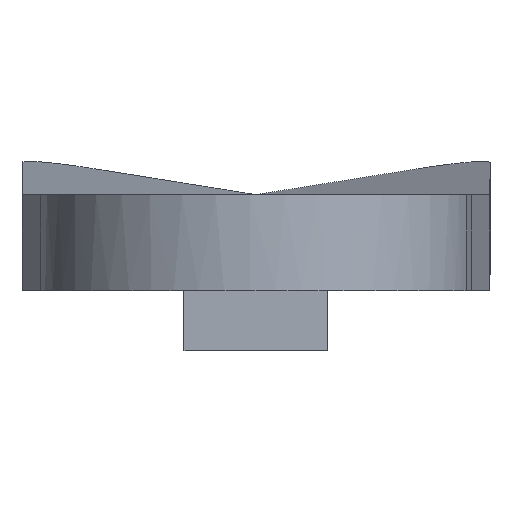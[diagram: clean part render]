
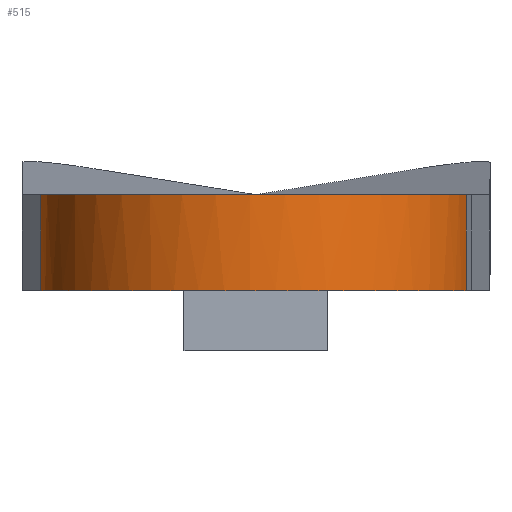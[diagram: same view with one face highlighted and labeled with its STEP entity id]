
A CAD part, left-side view. The second image highlights one B-rep face of the part: STEP entity #515.
In plain terms, the highlighted cylindrical face has radius 9 mm (diameter 18 mm), a partial arc.
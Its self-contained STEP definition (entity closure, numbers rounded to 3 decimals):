
#8 = CARTESIAN_POINT ( 'NONE',  ( -8.977, -0.871, 4. ) ) ;
#13 = AXIS2_PLACEMENT_3D ( 'NONE', #622, #873, #521 ) ;
#19 = VERTEX_POINT ( 'NONE', #265 ) ;
#29 = CARTESIAN_POINT ( 'NONE',  ( -3.741, 8.27, 0. ) ) ;
#34 = CARTESIAN_POINT ( 'NONE',  ( -6.575, 6.174, 4. ) ) ;
#45 = CARTESIAN_POINT ( 'NONE',  ( -4.264, -7.948, 4. ) ) ;
#71 = FACE_OUTER_BOUND ( 'NONE', #494, .T. ) ;
#84 = B_SPLINE_CURVE_WITH_KNOTS ( 'NONE', 3,
 ( #696, #1112, #1028, #951, #452, #735, #923, #990, #834, #913, #746, #34, #126, #752, #477, #295, #575, #981, #1075, #995, #8, #918, #390, #492, #880, #663, #959, #741, #1068, #212, #45, #135, #497, #628 ),
 .UNSPECIFIED., .F., .F.,
 ( 4, 2, 2, 2, 2, 2, 2, 2, 2, 2, 2, 2, 2, 2, 2, 2, 4 ),
 ( 0., 0.063, 0.125, 0.188, 0.25, 0.313, 0.375, 0.438, 0.5, 0.563, 0.625, 0.688, 0.75, 0.813, 0.875, 0.938, 1. ),
 .UNSPECIFIED. ) ;
#85 = CARTESIAN_POINT ( 'NONE',  ( 2.056, 8.762, 4. ) ) ;
#97 = CARTESIAN_POINT ( 'NONE',  ( -2.056, -8.762, 0. ) ) ;
#99 = CARTESIAN_POINT ( 'NONE',  ( -9.031, 0.909, 0. ) ) ;
#114 = CARTESIAN_POINT ( 'NONE',  ( -8.27, -3.741, 0. ) ) ;
#119 = VERTEX_POINT ( 'NONE', #717 ) ;
#126 = CARTESIAN_POINT ( 'NONE',  ( -6.964, 5.732, 4. ) ) ;
#135 = CARTESIAN_POINT ( 'NONE',  ( -3.188, -8.437, 4. ) ) ;
#204 = CARTESIAN_POINT ( 'NONE',  ( -8.493, 3.203, 0. ) ) ;
#208 = CARTESIAN_POINT ( 'NONE',  ( -2.056, -8.762, 1.333 ) ) ;
#209 = CARTESIAN_POINT ( 'NONE',  ( -6.209, -6.621, 0. ) ) ;
#212 = CARTESIAN_POINT ( 'NONE',  ( -4.773, -7.653, 4. ) ) ;
#254 = ORIENTED_EDGE ( 'NONE', *, *, #548, .F. ) ;
#265 = CARTESIAN_POINT ( 'NONE',  ( -2.056, -8.762, 0. ) ) ;
#295 = CARTESIAN_POINT ( 'NONE',  ( -8.437, 3.188, 4. ) ) ;
#306 = CARTESIAN_POINT ( 'NONE',  ( -2.616, 8.692, 0. ) ) ;
#345 = B_SPLINE_CURVE_WITH_KNOTS ( 'NONE', 3,
 ( #85, #864, #1038, #454 ),
 .UNSPECIFIED., .F., .F.,
 ( 4, 4 ),
 ( 0., 1. ),
 .UNSPECIFIED. ) ;
#349 = CYLINDRICAL_SURFACE ( 'NONE', #13, 9. ) ;
#390 = CARTESIAN_POINT ( 'NONE',  ( -8.635, -2.605, 4. ) ) ;
#429 = VERTEX_POINT ( 'NONE', #1021 ) ;
#439 = CARTESIAN_POINT ( 'NONE',  ( 2.056, 8.762, 0. ) ) ;
#452 = CARTESIAN_POINT ( 'NONE',  ( -0.871, 8.977, 4. ) ) ;
#454 = CARTESIAN_POINT ( 'NONE',  ( 2.056, 8.762, 0. ) ) ;
#459 = ORIENTED_EDGE ( 'NONE', *, *, #711, .T. ) ;
#461 = CARTESIAN_POINT ( 'NONE',  ( -2.056, -8.762, 0. ) ) ;
#468 = CARTESIAN_POINT ( 'NONE',  ( -9.072, -0.291, 0. ) ) ;
#472 = CARTESIAN_POINT ( 'NONE',  ( 2.056, 8.762, 0. ) ) ;
#477 = CARTESIAN_POINT ( 'NONE',  ( -7.948, 4.263, 4. ) ) ;
#480 = CARTESIAN_POINT ( 'NONE',  ( -4.296, -7.996, 0. ) ) ;
#492 = CARTESIAN_POINT ( 'NONE',  ( -8.22, -3.712, 4. ) ) ;
#494 = EDGE_LOOP ( 'NONE', ( #459, #977, #254, #1094 ) ) ;
#497 = CARTESIAN_POINT ( 'NONE',  ( -2.631, -8.627, 4. ) ) ;
#499 = VERTEX_POINT ( 'NONE', #439 ) ;
#515 = ADVANCED_FACE ( 'NONE', ( #71 ), #349, .T. ) ;
#519 = EDGE_CURVE ( 'NONE', #429, #119, #84, .T. ) ;
#521 = DIRECTION ( 'NONE',  ( 0.228, 0.974, 0. ) ) ;
#540 = CARTESIAN_POINT ( 'NONE',  ( -2.056, -8.762, 2.667 ) ) ;
#541 = CARTESIAN_POINT ( 'NONE',  ( -5.743, 7.029, 0. ) ) ;
#548 = EDGE_CURVE ( 'NONE', #119, #19, #1003, .T. ) ;
#564 = CARTESIAN_POINT ( 'NONE',  ( -8.692, -2.616, 0. ) ) ;
#575 = CARTESIAN_POINT ( 'NONE',  ( -8.627, 2.631, 4. ) ) ;
#622 = CARTESIAN_POINT ( 'NONE',  ( 0., 0., 0. ) ) ;
#628 = CARTESIAN_POINT ( 'NONE',  ( -2.056, -8.762, 4. ) ) ;
#636 = CARTESIAN_POINT ( 'NONE',  ( -6.621, 6.209, 0. ) ) ;
#663 = CARTESIAN_POINT ( 'NONE',  ( -7.338, -5.244, 4. ) ) ;
#696 = CARTESIAN_POINT ( 'NONE',  ( 2.056, 8.762, 4. ) ) ;
#711 = EDGE_CURVE ( 'NONE', #429, #499, #345, .T. ) ;
#717 = CARTESIAN_POINT ( 'NONE',  ( -2.056, -8.762, 4. ) ) ;
#729 = CARTESIAN_POINT ( 'NONE',  ( -7.029, -5.743, 0. ) ) ;
#735 = CARTESIAN_POINT ( 'NONE',  ( -2.037, 8.786, 4. ) ) ;
#741 = CARTESIAN_POINT ( 'NONE',  ( -6.174, -6.575, 4. ) ) ;
#746 = CARTESIAN_POINT ( 'NONE',  ( -5.712, 6.98, 4. ) ) ;
#752 = CARTESIAN_POINT ( 'NONE',  ( -7.653, 4.773, 4. ) ) ;
#822 = CARTESIAN_POINT ( 'NONE',  ( -3.203, -8.493, 0. ) ) ;
#834 = CARTESIAN_POINT ( 'NONE',  ( -4.24, 7.961, 4. ) ) ;
#864 = CARTESIAN_POINT ( 'NONE',  ( 2.056, 8.762, 2.667 ) ) ;
#873 = DIRECTION ( 'NONE',  ( 0., 0., 1. ) ) ;
#880 = CARTESIAN_POINT ( 'NONE',  ( -7.961, -4.24, 4. ) ) ;
#882 = CARTESIAN_POINT ( 'NONE',  ( -7.996, 4.296, 0. ) ) ;
#887 = CARTESIAN_POINT ( 'NONE',  ( -0.291, 9.072, 0. ) ) ;
#913 = CARTESIAN_POINT ( 'NONE',  ( -5.244, 7.338, 4. ) ) ;
#918 = CARTESIAN_POINT ( 'NONE',  ( -8.786, -2.037, 4. ) ) ;
#923 = CARTESIAN_POINT ( 'NONE',  ( -2.605, 8.635, 4. ) ) ;
#951 = CARTESIAN_POINT ( 'NONE',  ( -0.283, 9.015, 4. ) ) ;
#959 = CARTESIAN_POINT ( 'NONE',  ( -6.98, -5.712, 4. ) ) ;
#960 = CARTESIAN_POINT ( 'NONE',  ( 0.909, 9.031, 0. ) ) ;
#977 = ORIENTED_EDGE ( 'NONE', *, *, #1065, .T. ) ;
#981 = CARTESIAN_POINT ( 'NONE',  ( -8.897, 1.481, 4. ) ) ;
#990 = CARTESIAN_POINT ( 'NONE',  ( -3.712, 8.22, 4. ) ) ;
#995 = CARTESIAN_POINT ( 'NONE',  ( -9.015, -0.283, 4. ) ) ;
#1003 = B_SPLINE_CURVE_WITH_KNOTS ( 'NONE', 3,
 ( #1081, #540, #208, #97 ),
 .UNSPECIFIED., .F., .F.,
 ( 4, 4 ),
 ( 0., 1. ),
 .UNSPECIFIED. ) ;
#1021 = CARTESIAN_POINT ( 'NONE',  ( 2.056, 8.762, 4. ) ) ;
#1028 = CARTESIAN_POINT ( 'NONE',  ( 0.897, 8.975, 4. ) ) ;
#1038 = CARTESIAN_POINT ( 'NONE',  ( 2.056, 8.762, 1.333 ) ) ;
#1065 = EDGE_CURVE ( 'NONE', #499, #19, #1093, .T. ) ;
#1068 = CARTESIAN_POINT ( 'NONE',  ( -5.732, -6.964, 4. ) ) ;
#1075 = CARTESIAN_POINT ( 'NONE',  ( -8.975, 0.897, 4. ) ) ;
#1081 = CARTESIAN_POINT ( 'NONE',  ( -2.056, -8.762, 4. ) ) ;
#1093 = B_SPLINE_CURVE_WITH_KNOTS ( 'NONE', 3,
 ( #472, #960, #887, #306, #29, #541, #636, #882, #204, #99, #468, #564, #114, #729, #209, #480, #822, #461 ),
 .UNSPECIFIED., .F., .F.,
 ( 4, 2, 2, 2, 2, 2, 2, 2, 4 ),
 ( 0., 0.125, 0.25, 0.375, 0.5, 0.625, 0.75, 0.875, 1. ),
 .UNSPECIFIED. ) ;
#1094 = ORIENTED_EDGE ( 'NONE', *, *, #519, .F. ) ;
#1112 = CARTESIAN_POINT ( 'NONE',  ( 1.481, 8.897, 4. ) ) ;
